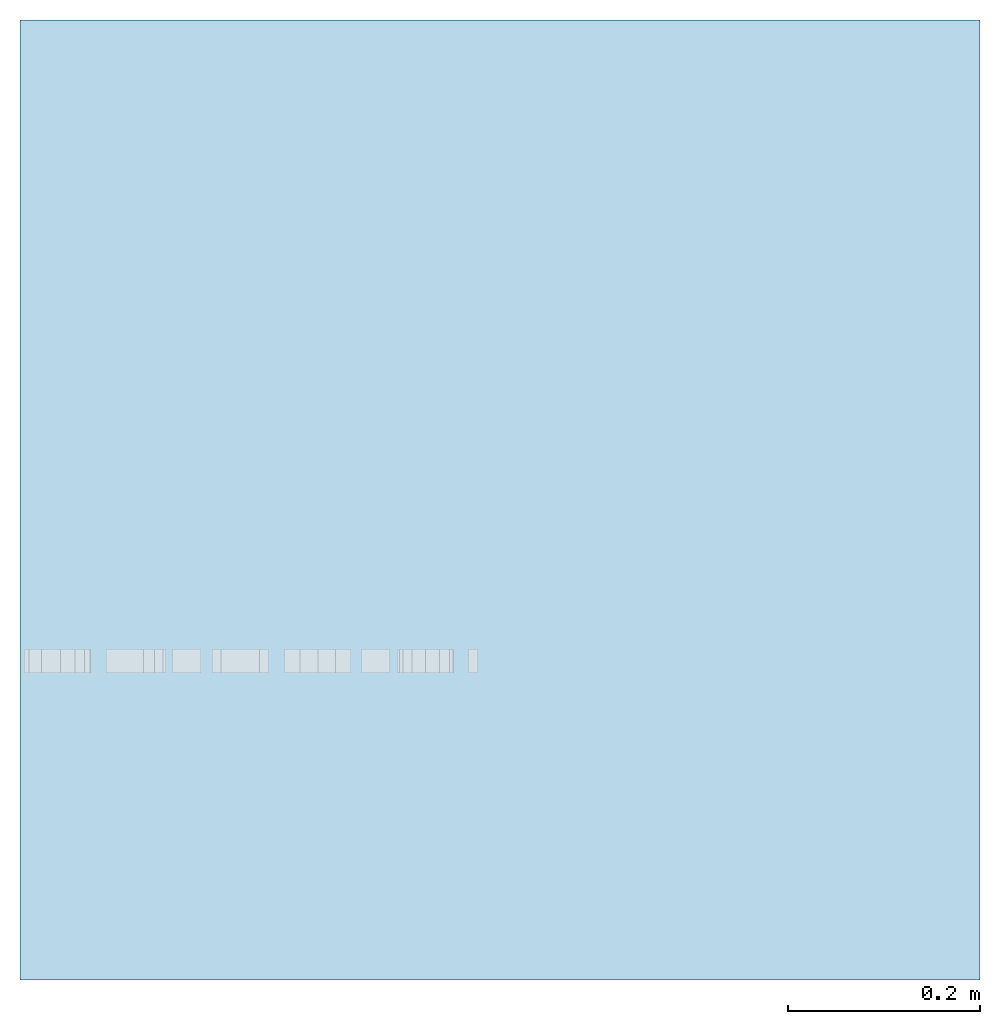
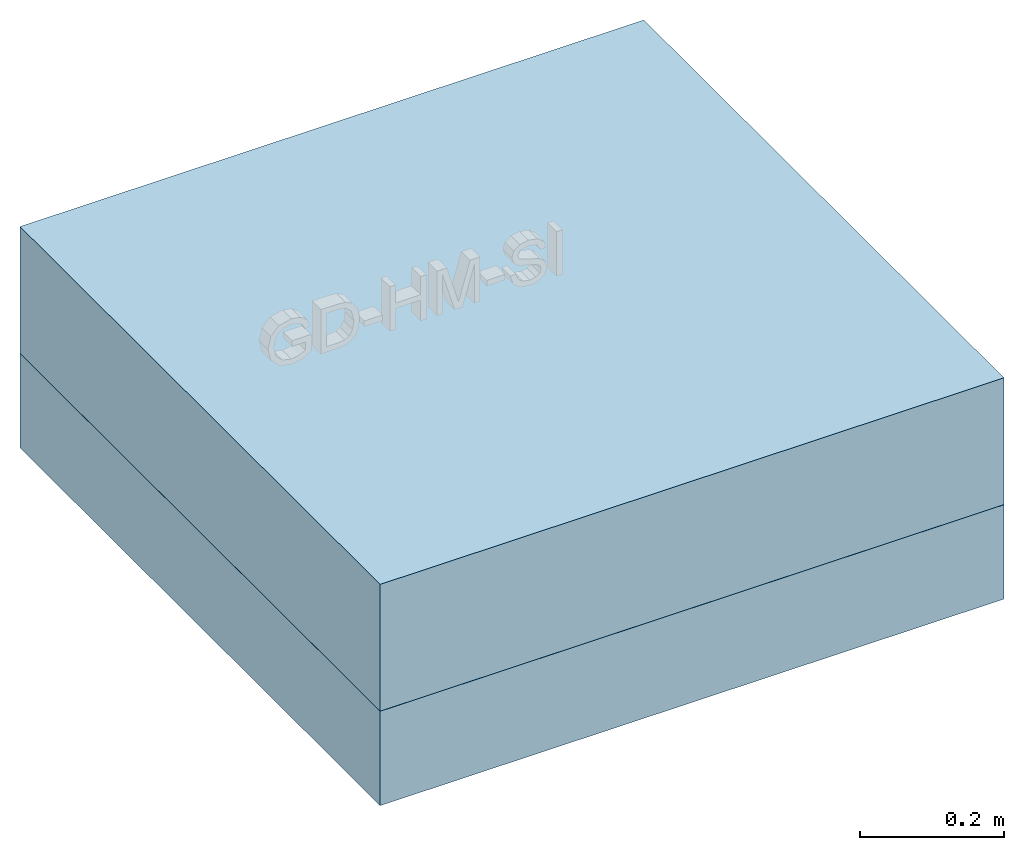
# Not in any storey, part 1 of 2: 2 slabs, 1 element without a shape of its own.
"""IFC4 model written with IfcOpenShell, lengths in metres."""

import ifcopenshell
import ifcopenshell.guid

model = None  # the IFC model being written
_history = None  # IfcOwnerHistory: only IFC2X3 demands one
_inside = {}  # id of a spatial element -> (the spatial element, [elements in it])
_under = {}  # id of a project, library or spatial element -> (it, [spatial elements below it])
_declared = {}  # id of a project -> (the project, [libraries it declares])
_typed = {}  # id of a type object -> (the type object, [elements of that type])
_made_of = {}  # id of a material, layer set ... -> (it, [elements and type objects made of it])


def new_model(schema):
    """Start an empty IFC model of exactly this schema.

    Asked for "IFC4X3", IfcOpenShell would pick the latest addendum, in which some entities
    have other attributes; the version numbers below select the first issue.
    IFC2X3 requires an IfcOwnerHistory on every rooted entity: one is made here for all.
    """
    global model, _history
    if schema == "IFC4X3":
        model = ifcopenshell.file(schema_version=(4, 3, 0, 0))
    else:
        model = ifcopenshell.file(schema=schema)
    _inside.clear()
    _under.clear()
    _declared.clear()
    _typed.clear()
    _made_of.clear()
    _history = None
    if model.schema == "IFC2X3":
        org = make("IfcOrganization", Name="unknown")
        user = make(
            "IfcPersonAndOrganization",
            ThePerson=make("IfcPerson", FamilyName="unknown"),
            TheOrganization=org,
        )
        app = make(
            "IfcApplication",
            ApplicationDeveloper=org,
            Version="unknown",
            ApplicationFullName="unknown",
            ApplicationIdentifier="unknown",
        )
        _history = make(
            "IfcOwnerHistory",
            OwningUser=user,
            OwningApplication=app,
            ChangeAction="ADDED",
            CreationDate=0,
        )
    return model


def make(cls, **values):
    """One entity of the class cls with the attributes given. An attribute that is None is left unset."""
    return model.create_entity(
        cls, **{name: value for name, value in values.items() if value is not None}
    )


def entity(cls, *values):
    """Any entity or typed value of the class cls, its attributes in the order of the schema. None: left unset."""
    e = model.create_entity(cls)
    for i, value in enumerate(values):
        if value is not None:
            e[i] = value
    return e


def rooted(cls, **values):
    """An entity with a GlobalId (a new one), such as an element, a storey or a relation."""
    return make(cls, GlobalId=ifcopenshell.guid.new(), OwnerHistory=_history, **values)


def si_unit(unit_type, name, prefix=None):
    """IfcSIUnit, for example si_unit("LENGTHUNIT", "METRE", prefix="MILLI")."""
    return make("IfcSIUnit", UnitType=unit_type, Prefix=prefix, Name=name)


def converted_unit(unit_type, name, factor, base, dimensions=None, offset=None):
    """IfcConversionBasedUnit, such as the inch: factor (a typed value) times the base unit."""
    return make(
        "IfcConversionBasedUnit"
        if offset is None
        else "IfcConversionBasedUnitWithOffset",
        ConversionOffset=offset,
        Dimensions=None
        if dimensions is None
        else entity("IfcDimensionalExponents", *dimensions),
        UnitType=unit_type,
        Name=name,
        ConversionFactor=make(
            "IfcMeasureWithUnit", ValueComponent=factor, UnitComponent=base
        ),
    )


def derived_unit(unit_type, elements):
    """IfcDerivedUnit: a product of units, each with its exponent."""
    return make(
        "IfcDerivedUnit",
        Elements=[
            make("IfcDerivedUnitElement", Unit=unit, Exponent=power)
            for unit, power in elements
        ],
        UnitType=unit_type,
    )


def assignment(units):
    """IfcUnitAssignment: the units of a project."""
    return None if units is None else make("IfcUnitAssignment", Units=units)


def point(xyz):
    """IfcCartesianPoint."""
    return None if xyz is None else make("IfcCartesianPoint", Coordinates=xyz)


def direction(xyz):
    """IfcDirection."""
    return None if xyz is None else make("IfcDirection", DirectionRatios=xyz)


def frame(location, z_axis=None, x_axis=None):
    """IfcAxis2Placement3D, a coordinate frame: its origin and axes. An axis left out is left unset."""
    return make(
        "IfcAxis2Placement3D",
        Location=point(location),
        Axis=direction(z_axis),
        RefDirection=direction(x_axis),
    )


def origin():
    """The frame at (0, 0, 0) with its axes left unset."""
    return frame((0.0, 0.0, 0.0))


def place(relative_to, where):
    """IfcLocalPlacement: puts the frame where relative to a parent placement (None: the world)."""
    return make(
        "IfcLocalPlacement", PlacementRelTo=relative_to, RelativePlacement=where
    )


def context(
    kind, dimensions, precision=None, world=None, true_north=None, identifier=None
):
    """IfcGeometricRepresentationContext, for example the 3D "Model" context."""
    return make(
        "IfcGeometricRepresentationContext",
        ContextIdentifier=identifier,
        ContextType=kind,
        CoordinateSpaceDimension=dimensions,
        Precision=precision,
        WorldCoordinateSystem=world,
        TrueNorth=true_north,
    )


def subcontext(parent, identifier, kind, view, scale=None):
    """IfcGeometricRepresentationSubContext, for example "Body" below "Model"."""
    return make(
        "IfcGeometricRepresentationSubContext",
        ContextIdentifier=identifier,
        ContextType=kind,
        ParentContext=parent,
        TargetScale=scale,
        TargetView=view,
    )


def project(units=None, contexts=None):
    """IfcProject with its units and contexts."""
    return rooted(
        "IfcProject",
        Name="project",
        RepresentationContexts=contexts,
        UnitsInContext=assignment(units),
    )


def spatial(cls, under=None, at=None, **own):
    """A site, building, storey or space (cls), placed at a placement, below another one or the project."""
    s = rooted(cls, ObjectPlacement=at, **own)
    if under is not None:
        _under.setdefault(under.id(), (under, []))[1].append(s)
    return s


def point_list(points):
    """IfcCartesianPointList2D or 3D."""
    cls = (
        "IfcCartesianPointList2D" if len(points[0]) == 2 else "IfcCartesianPointList3D"
    )
    return make(cls, CoordList=points)


def indexed_curve(points, segments=None, self_intersect=None):
    """IfcIndexedPolyCurve: lines and arcs through numbered points (the first is 1)."""
    return make(
        "IfcIndexedPolyCurve",
        Points=point_list(points),
        Segments=segments,
        SelfIntersect=self_intersect,
    )


def outline(outer, holes=None, kind="AREA"):
    """IfcArbitraryClosedProfileDef: a profile drawn as a closed curve; with holes, ...WithVoids."""
    if holes is None:
        return make("IfcArbitraryClosedProfileDef", ProfileType=kind, OuterCurve=outer)
    return make(
        "IfcArbitraryProfileDefWithVoids",
        ProfileType=kind,
        OuterCurve=outer,
        InnerCurves=holes,
    )


def extrude(swept, where, along, depth):
    """IfcExtrudedAreaSolid: the profile swept, set in the frame where, extruded along a direction by depth."""
    return make(
        "IfcExtrudedAreaSolid",
        SweptArea=swept,
        Position=where,
        ExtrudedDirection=direction(along),
        Depth=depth,
    )


def shape(context_of_items, identifier, shape_type, items):
    """IfcShapeRepresentation: the items that make up one representation, for example the "Body"."""
    return make(
        "IfcShapeRepresentation",
        ContextOfItems=context_of_items,
        RepresentationIdentifier=identifier,
        RepresentationType=shape_type,
        Items=items,
    )


def material(Name=None, Category=None):
    """IfcMaterial."""
    return make("IfcMaterial", Name=Name, Category=Category)


def constituent(of_material, Name=None, Category=None, fraction=None):
    """IfcMaterialConstituent: one of the materials an element consists of."""
    return make(
        "IfcMaterialConstituent",
        Name=Name,
        Material=of_material,
        Fraction=fraction,
        Category=Category,
    )


def constituent_set(constituents=None, Name=None):
    """IfcMaterialConstituentSet."""
    return make(
        "IfcMaterialConstituentSet", Name=Name, MaterialConstituents=constituents
    )


def made_of(thing, what):
    """Note that an element or type object is made of a material, layer set ...; save() writes the relation."""
    if what is not None:
        _made_of.setdefault(what.id(), (what, []))[1].append(thing)
    return thing


def type_object(cls, material=None, **own):
    """A type object (cls), such as IfcWallType, which elements share."""
    return made_of(rooted(cls, **own), material)


def element(
    cls,
    number,
    at=None,
    inside=None,
    cuts=None,
    type_object=None,
    material=None,
    context=None,
    identifier="Body",
    shape_type=None,
    held_by="IfcProductDefinitionShape",
    body=None,
    shapes=None,
    **own,
):
    """One element of the class cls, such as IfcWall. Its Tag is "e" and its number.

    at: its placement. inside: the storey or other place that contains it. cuts: it is an
    opening in that element (IfcRelVoidsElement). A single representation is given by context,
    identifier, shape_type and body (its items); several are given by shapes. held_by: the class
    of the entity that holds the representations. save() writes the other relations.
    """
    e = rooted(cls, Tag="e%d" % number, ObjectPlacement=at, **own)
    if body is not None:
        shapes = [shape(context, identifier, shape_type, body)]
    if shapes is not None:
        e.Representation = make(held_by, Representations=shapes)
    if inside is not None:
        _inside.setdefault(inside.id(), (inside, []))[1].append(e)
    if cuts is not None:
        rooted(
            "IfcRelVoidsElement", RelatingBuildingElement=cuts, RelatedOpeningElement=e
        )
    if type_object is not None:
        _typed.setdefault(type_object.id(), (type_object, []))[1].append(e)
    return made_of(e, material)


def aggregate(whole, parts):
    """IfcRelAggregates: a whole, such as a stair, and the parts it consists of."""
    return rooted("IfcRelAggregates", RelatingObject=whole, RelatedObjects=parts)


def save(model, path):
    """Write the relations noted so far, then the file.

    IfcRelAggregates (storeys below a building ...), IfcRelContainedInSpatialStructure (elements
    in a storey), IfcRelDefinesByType, IfcRelAssociatesMaterial and IfcRelDeclares: one each for
    every whole, place, type object, material and project.
    """
    for whole, parts in _under.values():
        aggregate(whole, parts)
    for where, things in _inside.values():
        rooted(
            "IfcRelContainedInSpatialStructure",
            RelatedElements=things,
            RelatingStructure=where,
        )
    for kind, things in _typed.values():
        rooted("IfcRelDefinesByType", RelatedObjects=things, RelatingType=kind)
    for what, things in _made_of.values():
        rooted("IfcRelAssociatesMaterial", RelatedObjects=things, RelatingMaterial=what)
    for by, libraries in _declared.values():
        rooted("IfcRelDeclares", RelatingContext=by, RelatedDefinitions=libraries)
    model.write(path)


model = new_model("IFC4")

# Units and contexts
model_context = context("Model", 3, precision=1e-05, world=origin(), true_north=direction((6.123031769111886e-17, 1.0)))
body_context = subcontext(model_context, "Body", "Model", "MODEL_VIEW")
ifc_project = project(units=[si_unit("LENGTHUNIT", "METRE"), si_unit("AREAUNIT", "SQUARE_METRE"), si_unit("VOLUMEUNIT", "CUBIC_METRE"), converted_unit("PLANEANGLEUNIT", "DEGREE", entity("IfcRatioMeasure", 0.017453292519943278), si_unit("PLANEANGLEUNIT", "RADIAN"), dimensions=[0, 0, 0, 0, 0, 0, 0]), si_unit("MASSUNIT", "GRAM", prefix="KILO"), derived_unit("MASSDENSITYUNIT", [(si_unit("MASSUNIT", "GRAM", prefix="KILO"), 1), (si_unit("LENGTHUNIT", "METRE"), -3)]), derived_unit("IONCONCENTRATIONUNIT", [(si_unit("MASSUNIT", "GRAM", prefix="KILO"), 1), (si_unit("LENGTHUNIT", "METRE"), -3)]), derived_unit("MOMENTOFINERTIAUNIT", [(si_unit("LENGTHUNIT", "METRE"), 4)]), si_unit("TIMEUNIT", "SECOND"), si_unit("FREQUENCYUNIT", "HERTZ"), si_unit("THERMODYNAMICTEMPERATUREUNIT", "DEGREE_CELSIUS"), derived_unit("THERMALTRANSMITTANCEUNIT", [(si_unit("MASSUNIT", "GRAM", prefix="KILO"), 1), (si_unit("THERMODYNAMICTEMPERATUREUNIT", "KELVIN"), -1), (si_unit("TIMEUNIT", "SECOND"), -3)]), derived_unit("THERMALCONDUCTANCEUNIT", [(si_unit("MASSUNIT", "GRAM", prefix="KILO"), 1), (si_unit("THERMODYNAMICTEMPERATUREUNIT", "KELVIN"), -1), (si_unit("TIMEUNIT", "SECOND"), -3), (si_unit("LENGTHUNIT", "METRE"), 1)]), derived_unit("VOLUMETRICFLOWRATEUNIT", [(si_unit("LENGTHUNIT", "METRE"), 3), (si_unit("TIMEUNIT", "SECOND"), -1)]), derived_unit("MASSFLOWRATEUNIT", [(si_unit("MASSUNIT", "GRAM", prefix="KILO"), 1), (si_unit("TIMEUNIT", "SECOND"), -1)]), derived_unit("ROTATIONALFREQUENCYUNIT", [(si_unit("TIMEUNIT", "SECOND"), -1)]), si_unit("ELECTRICCURRENTUNIT", "AMPERE"), si_unit("ELECTRICVOLTAGEUNIT", "VOLT"), si_unit("POWERUNIT", "WATT"), si_unit("FORCEUNIT", "NEWTON", prefix="KILO"), si_unit("ILLUMINANCEUNIT", "LUX"), si_unit("LUMINOUSFLUXUNIT", "LUMEN"), si_unit("LUMINOUSINTENSITYUNIT", "CANDELA"), derived_unit("USERDEFINED", [(si_unit("MASSUNIT", "GRAM", prefix="KILO"), -1), (si_unit("LENGTHUNIT", "METRE"), -2), (si_unit("TIMEUNIT", "SECOND"), 3), (si_unit("LUMINOUSFLUXUNIT", "LUMEN"), 1)]), derived_unit("USERDEFINED", [(si_unit("MASSUNIT", "GRAM", prefix="KILO"), 1), (si_unit("TIMEUNIT", "SECOND"), -3), (si_unit("LENGTHUNIT", "METRE"), 3), (si_unit("ELECTRICCURRENTUNIT", "AMPERE"), -2)]), derived_unit("SOUNDPOWERUNIT", [(si_unit("MASSUNIT", "GRAM", prefix="KILO"), 1), (si_unit("TIMEUNIT", "SECOND"), -3), (si_unit("LENGTHUNIT", "METRE"), 2)]), derived_unit("SOUNDPRESSUREUNIT", [(si_unit("MASSUNIT", "GRAM", prefix="KILO"), 1), (si_unit("LENGTHUNIT", "METRE"), -1), (si_unit("TIMEUNIT", "SECOND"), -2)]), derived_unit("LINEARVELOCITYUNIT", [(si_unit("LENGTHUNIT", "METRE"), 1), (si_unit("TIMEUNIT", "SECOND"), -1)]), si_unit("PRESSUREUNIT", "PASCAL"), derived_unit("USERDEFINED", [(si_unit("MASSUNIT", "GRAM", prefix="KILO"), 1), (si_unit("LENGTHUNIT", "METRE"), -2), (si_unit("TIMEUNIT", "SECOND"), -2)]), derived_unit("LINEARFORCEUNIT", [(si_unit("MASSUNIT", "GRAM", prefix="KILO"), 1), (si_unit("TIMEUNIT", "SECOND"), -2)]), derived_unit("PLANARFORCEUNIT", [(si_unit("MASSUNIT", "GRAM", prefix="KILO"), 1), (si_unit("LENGTHUNIT", "METRE"), -1), (si_unit("TIMEUNIT", "SECOND"), -2)]), derived_unit("SPECIFICHEATCAPACITYUNIT", [(si_unit("THERMODYNAMICTEMPERATUREUNIT", "KELVIN"), -1), (si_unit("LENGTHUNIT", "METRE"), 2), (si_unit("TIMEUNIT", "SECOND"), -2)]), derived_unit("HEATINGVALUEUNIT", [(si_unit("LENGTHUNIT", "METRE"), 2), (si_unit("TIMEUNIT", "SECOND"), -2)]), derived_unit("VAPORPERMEABILITYUNIT", [(si_unit("LENGTHUNIT", "METRE"), -1), (si_unit("TIMEUNIT", "SECOND"), 1)]), derived_unit("DYNAMICVISCOSITYUNIT", [(si_unit("MASSUNIT", "GRAM", prefix="KILO"), 1), (si_unit("TIMEUNIT", "SECOND"), -1), (si_unit("LENGTHUNIT", "METRE"), -1)]), derived_unit("THERMALEXPANSIONCOEFFICIENTUNIT", [(si_unit("THERMODYNAMICTEMPERATUREUNIT", "KELVIN"), -1)]), derived_unit("MODULUSOFELASTICITYUNIT", [(si_unit("MASSUNIT", "GRAM", prefix="KILO"), 1), (si_unit("LENGTHUNIT", "METRE"), -1), (si_unit("TIMEUNIT", "SECOND"), -2)]), derived_unit("ISOTHERMALMOISTURECAPACITYUNIT", [(si_unit("LENGTHUNIT", "METRE"), 3), (si_unit("MASSUNIT", "GRAM", prefix="KILO"), -1)]), derived_unit("MOISTUREDIFFUSIVITYUNIT", [(si_unit("TIMEUNIT", "SECOND"), -1), (si_unit("LENGTHUNIT", "METRE"), 2)])], contexts=[model_context])

# Site
site_placement = place(None, origin())
site = spatial("IfcSite", under=ifc_project, at=site_placement, Name="Default", CompositionType="ELEMENT")

# Assembly, slabs
ifc_material_1 = material(Name="fbim_18108010_AT_015_Parkettboden")
ifc_constituent_1 = constituent(ifc_material_1, Name="fbim_18108010_AT_015_Parkettboden")
ifc_material_2 = material(Name="fbim_16051005_AT_225_Estrichbeton_E225")
ifc_constituent_2 = constituent(ifc_material_2, Name="fbim_16051005_AT_225_Estrichbeton_E225")
ifc_material_3 = material(Name="fbim_14104050_AT_035_MW-Trittschalldaemmplatte")
ifc_constituent_3 = constituent(ifc_material_3, Name="fbim_14104050_AT_035_MW-Trittschalldaemmplatte")
ifc_material_4 = material(Name="fbim_10053020_AT_024_Splitt_2-4")
ifc_constituent_4 = constituent(ifc_material_4, Name="fbim_10053020_AT_024_Splitt_2-4")
ifc_constituent_set = constituent_set(constituents=[ifc_constituent_1, ifc_constituent_2, ifc_constituent_3, ifc_constituent_4], Name="Geschossdecke:fbimSg_Floor_sb_WOD_vis_at_NTR_natuREbuilt_MhS_GK3_o_21,5cm")
assembly_placement = place(site_placement, origin())
assembly = element("IfcElementAssembly", 1, at=assembly_placement, inside=site, material=ifc_constituent_set, Name="Geschossdecken Baugruppe:fbimSg_Slab_bc_WOD_vis_at_NTR_natuREbuilt_GD-HM-SI_GK3_38cm", ObjectType="Geschossdecken Baugruppe:fbimSg_Slab_bc_WOD_vis_at_NTR_natuREbuilt_GD-HM-SI_GK3_38cm", AssemblyPlace="NOTDEFINED", PredefinedType="USERDEFINED")
slab_type_1 = type_object("IfcSlabType", Name="Geschossdecke:fbimSg_Floor_sb_WOD_vis_at_NTR_natuREbuilt_MhS_GK3_o_21,5cm", PredefinedType="FLOOR", material=ifc_constituent_set)
slab_1_placement = place(assembly_placement, origin())
slab_1 = element("IfcSlab", 2, at=slab_1_placement, type_object=slab_type_1, Name="Geschossdecke:fbimSg_Floor_sb_WOD_vis_at_NTR_natuREbuilt_MhS_GK3_o_21,5cm", ObjectType="Geschossdecke:fbimSg_Floor_sb_WOD_vis_at_NTR_natuREbuilt_MhS_GK3_o_21,5cm", PredefinedType="FLOOR", context=body_context, shape_type="SweptSolid", body=[
    extrude(outline(indexed_curve([(-0.5, -0.49999999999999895), (0.5, -0.49999999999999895), (0.5, 0.49999999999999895), (-0.5, 0.49999999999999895), (-0.5, -0.49999999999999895)], self_intersect=False)), frame((8.91110669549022, 43.0146922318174, 1.9164072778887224), z_axis=(0.0, 0.0, 1.0), x_axis=(-1.0, 0.0, 0.0)), (0.0, 0.0, 1.0), 0.015000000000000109),
    extrude(outline(indexed_curve([(-0.5, -0.49999999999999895), (0.5, -0.49999999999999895), (0.5, 0.49999999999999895), (-0.5, 0.49999999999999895), (-0.5, -0.49999999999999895)], self_intersect=False)), frame((8.91110669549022, 43.0146922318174, 1.8464072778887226), z_axis=(0.0, 0.0, 1.0), x_axis=(-1.0, 0.0, 0.0)), (0.0, 0.0, 1.0), 0.06999999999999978),
    extrude(outline(indexed_curve([(-0.5, -0.5000000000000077), (0.5, -0.49999999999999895), (0.5, 0.49999999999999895), (-0.5, 0.49999999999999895), (-0.5, -0.5000000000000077)], self_intersect=False)), frame((8.91110669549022, 43.0146922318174, 1.8164072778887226), z_axis=(0.0, 0.0, 1.0), x_axis=(-1.0, 0.0, 0.0)), (0.0, 0.0, 1.0), 0.030000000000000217),
    extrude(outline(indexed_curve([(-0.5, -0.49999999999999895), (0.5, -0.49999999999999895), (0.5, 0.49999999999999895), (-0.5, 0.49999999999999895), (-0.5, -0.49999999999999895)], self_intersect=False)), frame((8.91110669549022, 43.0146922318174, 1.7164072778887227), z_axis=(0.0, 0.0, 1.0), x_axis=(-1.0, 0.0, 0.0)), (0.0, 0.0, 1.0), 0.09999999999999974),
])
ifc_material_5 = material(Name="fbim_AT_KLH_Massivholz")
slab_type_2 = type_object("IfcSlabType", Name="Geschossdecke:fbimSg_Slab_dp_INS_vis_at_NTR_natuREbuilt_MhS_GK3_k_16cm", PredefinedType="FLOOR", material=ifc_material_5)
slab_2_placement = place(assembly_placement, origin())
slab_2 = element("IfcSlab", 3, at=slab_2_placement, type_object=slab_type_2, material=ifc_material_5, Name="Geschossdecke:fbimSg_Slab_dp_INS_vis_at_NTR_natuREbuilt_MhS_GK3_k_16cm", ObjectType="Geschossdecke:fbimSg_Slab_dp_INS_vis_at_NTR_natuREbuilt_MhS_GK3_k_16cm", PredefinedType="FLOOR", context=body_context, shape_type="SweptSolid", body=[
    extrude(outline(indexed_curve([(-0.49999999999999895, -0.5), (0.49999999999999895, -0.5), (0.49999999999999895, 0.5), (-0.49999999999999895, 0.5), (-0.49999999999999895, -0.5)], self_intersect=False)), frame((8.911106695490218, 43.0146922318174, 1.7164072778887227), z_axis=(0.0, 0.0, -1.0), x_axis=(0.0, 1.0, 0.0)), (0.0, 0.0, 1.0), 0.1599999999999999),
])
aggregate(assembly, [slab_1, slab_2])

save(model, "model.ifc")
